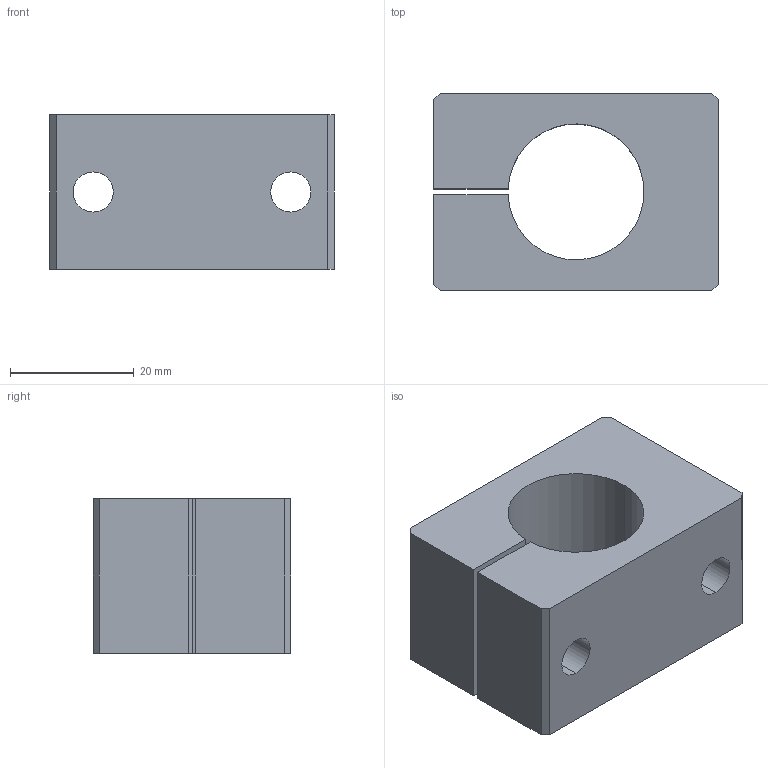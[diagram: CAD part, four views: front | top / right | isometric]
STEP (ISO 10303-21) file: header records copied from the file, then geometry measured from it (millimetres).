
FILE_DESCRIPTION (( '' ), '1' );
FILE_NAME ('CM25x2.STEP', '', ( '' ), ( '' ), '', '', '' );
FILE_SCHEMA (( 'CONFIG_CONTROL_DESIGN' ));
Length unit declared in the file: millimetre
Products named in the file (1): PCM0250015-0000(F)(CLAMP MOUNT)
Bounding box: 46 x 32 x 25 mm (x, y, z)
Volume: 24138.6 mm3; surface area: 9527 mm2
Topology: 1 solids, 1 shells, 27 faces, 69 edges, 46 vertices
Faces by surface type: plane 15, cylinder 12
Entity records: 916 total; most frequent: DIRECTION 149, CARTESIAN_POINT 143, ORIENTED_EDGE 138, EDGE_CURVE 69, AXIS2_PLACEMENT_3D 52, VERTEX_POINT 46, LINE 45, VECTOR 45
